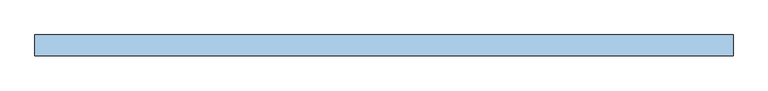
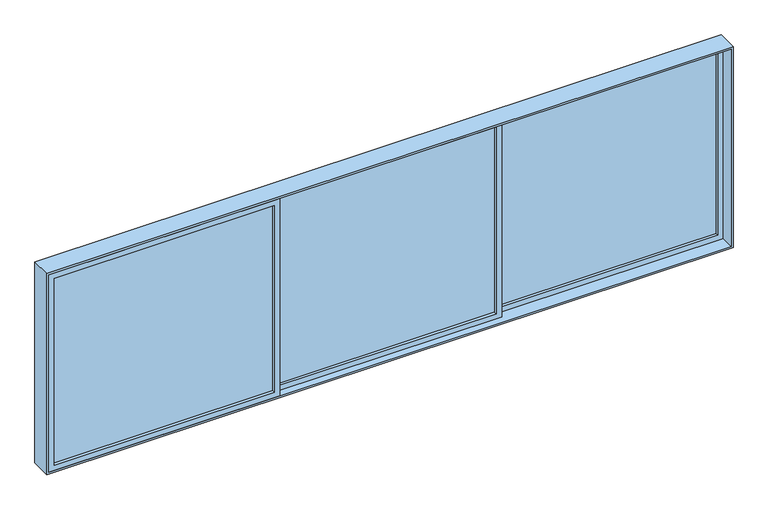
"""IFC4 building model written with IfcOpenShell, lengths in millimetres: window geometry, VENT_ALUM_CORR_3HOJAS_CORRE 2 : VD-14b / CORRE RECAM 5.0 X 1.55."""

from ifc_helpers import new_model, si_unit, frame, origin, place, context, project, spatial, polyline, outline, extrude, source, transform, mapped, element, save


def window_efea7701(model_context):
    return source(origin(), model_context, "Body", "SweptSolid", [
        extrude(outline(polyline([(-2445.0, -47.0), (-841.6666667, -47.0), (-841.6666667, -53.0), (-2445.0, -53.0), (-2445.0, -47.0)])), frame((0.0, 0.0, 855.0), z_axis=(0.0, 0.0, 1.0), x_axis=(1.0, 0.0, 0.0)), (0.0, 0.0, 1.0), 1440.0),
        extrude(outline(polyline([(815.0, -2485.0), (815.0, -801.6666667), (2335.0, -801.6666667), (2335.0, -2485.0), (815.0, -2485.0)]), holes=[polyline([(2295.0, -2445.0), (2295.0, -841.6666667), (855.0, -841.6666667), (855.0, -2445.0), (2295.0, -2445.0)])]), frame((0.0, -75.0, 0.0), z_axis=(0.0, 1.0, 0.0), x_axis=(0.0, 0.0, 1.0)), (0.0, 0.0, 1.0), 50.0),
        extrude(outline(polyline([(-801.6666667, 3.0), (801.6666667, 3.0), (801.6666667, -3.0), (-801.6666667, -3.0), (-801.6666667, 3.0)])), frame((0.0, 0.0, 855.0), z_axis=(0.0, 0.0, 1.0), x_axis=(1.0, 0.0, 0.0)), (0.0, 0.0, 1.0), 1440.0),
        extrude(outline(polyline([(815.0, -841.6666667), (815.0, 841.6666667), (2335.0, 841.6666667), (2335.0, -841.6666667), (815.0, -841.6666667)]), holes=[polyline([(2295.0, -801.6666667), (2295.0, 801.6666667), (855.0, 801.6666667), (855.0, -801.6666667), (2295.0, -801.6666667)])]), frame((0.0, -25.0, 0.0), z_axis=(0.0, 1.0, 0.0), x_axis=(0.0, 0.0, 1.0)), (0.0, 0.0, 1.0), 50.0),
        extrude(outline(polyline([(841.6666667, 53.0), (2445.0, 53.0), (2445.0, 47.0), (841.6666667, 47.0), (841.6666667, 53.0)])), frame((0.0, 0.0, 855.0), z_axis=(0.0, 0.0, 1.0), x_axis=(1.0, 0.0, 0.0)), (0.0, 0.0, 1.0), 1440.0),
        extrude(outline(polyline([(815.0, 801.6666667), (815.0, 2485.0), (2335.0, 2485.0), (2335.0, 801.6666667), (815.0, 801.6666667)]), holes=[polyline([(2295.0, 841.6666667), (2295.0, 2445.0), (855.0, 2445.0), (855.0, 841.6666667), (2295.0, 841.6666667)])]), frame((0.0, 25.0, 0.0), z_axis=(0.0, 1.0, 0.0), x_axis=(0.0, 0.0, 1.0)), (0.0, 0.0, 1.0), 50.0),
        extrude(outline(polyline([(800.0, -2500.0), (800.0, 2500.0), (2350.0, 2500.0), (2350.0, -2500.0), (800.0, -2500.0)]), holes=[polyline([(2335.0, -2485.0), (2335.0, 2485.0), (815.0, 2485.0), (815.0, -2485.0), (2335.0, -2485.0)])]), frame((0.0, -75.0, 0.0), z_axis=(0.0, 1.0, 0.0), x_axis=(0.0, 0.0, 1.0)), (0.0, 0.0, 1.0), 150.0),
    ])


if __name__ == "__main__":
    model = new_model("IFC4")
    model_context = context("Model", 3, world=origin())
    ifc_project = project(units=[si_unit("LENGTHUNIT", "METRE", prefix="MILLI")], contexts=[model_context])
    site = spatial("IfcSite", under=ifc_project)
    building = spatial("IfcBuilding", under=site)
    placement = place(None, origin())
    window_shape = window_efea7701(model_context)
    element("IfcWindow", 1, ObjectType="VENT_ALUM_CORR_3HOJAS_CORRE 2 : VD-14b / CORRE RECAM 5.0 X 1.55", at=placement, inside=building, context=model_context, shape_type="MappedRepresentation", body=[
        mapped(window_shape, transform((0.0, 0.0, 0.0), x_axis=(1.0, 0.0, 0.0), y_axis=(0.0, 1.0, 0.0), z_axis=(0.0, 0.0, 1.0))),
    ])
    save(model, "model.ifc")
